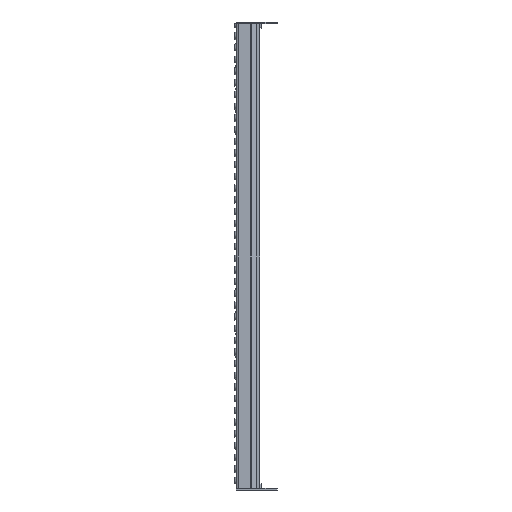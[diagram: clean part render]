
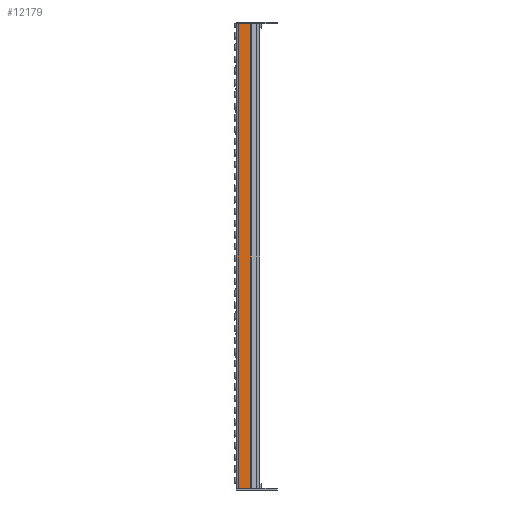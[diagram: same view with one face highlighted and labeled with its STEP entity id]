
A CAD part, left-side view. The second image highlights one B-rep face of the part: STEP entity #12179.
In plain terms, the highlighted planar face has unit normal (-1, 0, 0).
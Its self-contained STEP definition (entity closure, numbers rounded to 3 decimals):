
#1976=FACE_OUTER_BOUND('',#2951,.T.);
#2951=EDGE_LOOP('',(#10764,#10765,#10766,#10767));
#3922=LINE('',#24357,#4974);
#3933=LINE('',#24387,#4985);
#3943=LINE('',#24410,#4995);
#3950=LINE('',#24425,#5002);
#4974=VECTOR('',#16635,10.);
#4985=VECTOR('',#16660,10.);
#4995=VECTOR('',#16682,10.);
#5002=VECTOR('',#16701,10.);
#6109=VERTEX_POINT('',#24354);
#6110=VERTEX_POINT('',#24356);
#6122=VERTEX_POINT('',#24386);
#6129=VERTEX_POINT('',#24409);
#7660=EDGE_CURVE('',#6110,#6109,#3922,.T.);
#7675=EDGE_CURVE('',#6109,#6122,#3933,.T.);
#7687=EDGE_CURVE('',#6129,#6110,#3943,.T.);
#7695=EDGE_CURVE('',#6122,#6129,#3950,.T.);
#10764=ORIENTED_EDGE('',*,*,#7675,.T.);
#10765=ORIENTED_EDGE('',*,*,#7695,.T.);
#10766=ORIENTED_EDGE('',*,*,#7687,.T.);
#10767=ORIENTED_EDGE('',*,*,#7660,.T.);
#11392=PLANE('',#13492);
#12179=ADVANCED_FACE('',(#1976),#11392,.T.);
#13492=AXIS2_PLACEMENT_3D('',#24426,#16702,#16703);
#16635=DIRECTION('',(0.,1.,0.));
#16660=DIRECTION('',(0.,0.,-1.));
#16682=DIRECTION('',(0.,0.,1.));
#16701=DIRECTION('',(0.,-1.,0.));
#16702=DIRECTION('center_axis',(-1.,0.,0.));
#16703=DIRECTION('ref_axis',(0.,0.,1.));
#24354=CARTESIAN_POINT('',(0.,-3.25,794.));
#24356=CARTESIAN_POINT('',(0.,-24.427,794.));
#24357=CARTESIAN_POINT('',(0.,0.,794.));
#24386=CARTESIAN_POINT('',(0.,-3.25,0.));
#24387=CARTESIAN_POINT('',(0.,-3.25,0.));
#24409=CARTESIAN_POINT('',(0.,-24.427,0.));
#24410=CARTESIAN_POINT('',(0.,-24.427,198.5));
#24425=CARTESIAN_POINT('',(0.,0.,0.));
#24426=CARTESIAN_POINT('Origin',(0.,-25.,0.));
